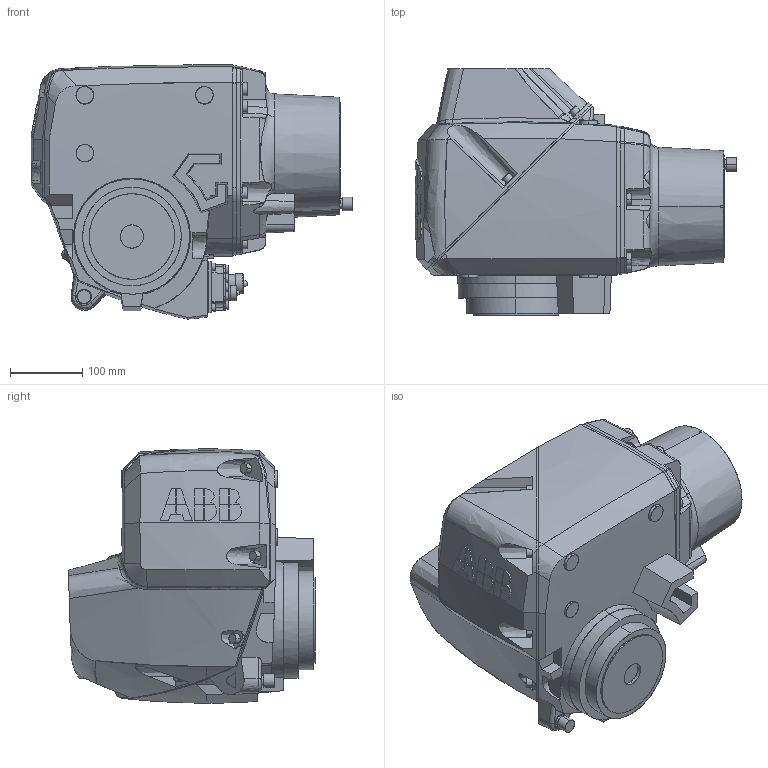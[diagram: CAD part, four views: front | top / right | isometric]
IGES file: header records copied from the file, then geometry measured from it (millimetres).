
Start section: SolidWorks IGES file using analytic representation for surfaces
Global section: file name: C:\Data\Lättmodeller\Nytt\2600\IRB2600\IRB2600_20-165_IRC5_rev00\IRB2600_20-165_IRC5_rev00_IRC5_IGES_j\IRB2600_20-165_LINK3_CAD_rev02.IGS; native system: SolidWorks 2014; preprocessor: SolidWorks 2014; author: seadbov; date: 161202.125220; units: millimetre
Bounding box: 444.23 x 340.66 x 351.14 mm (x, y, z)
Surface area: 644791.9 mm2 (no closed solid volume)
Topology: 0 solids, 0 shells, 800 faces, 10504 edges, 10494 vertices
Faces by surface type: bspline 524, revolution 276
